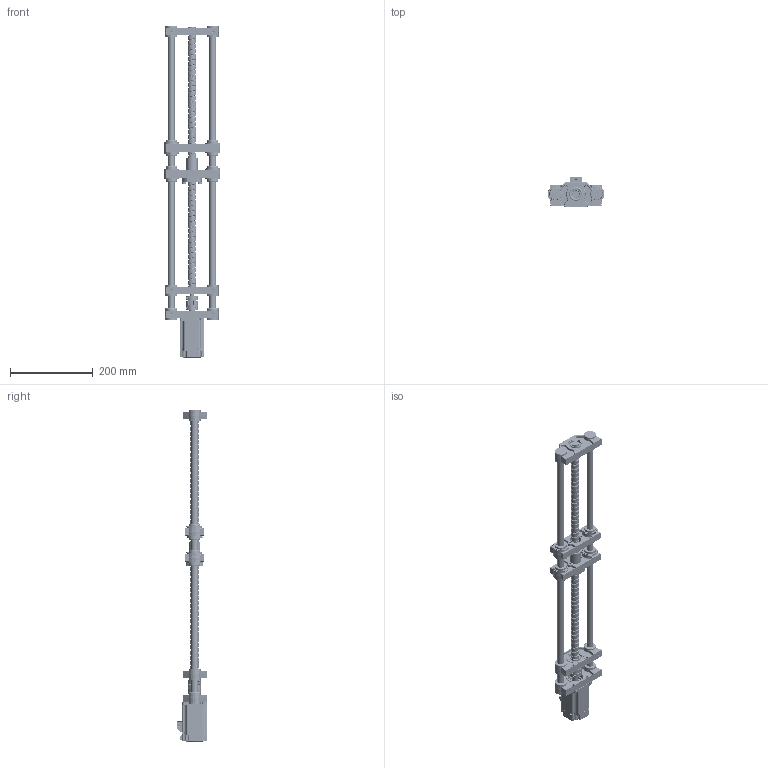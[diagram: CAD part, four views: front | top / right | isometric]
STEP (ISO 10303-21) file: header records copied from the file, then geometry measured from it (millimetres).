
FILE_DESCRIPTION (( 'STEP AP203' ), '1' );
FILE_NAME ('MAF-16.STEP', '2026-04-29T16:08:42', ( '' ), ( '' ), 'SwSTEP 2.0', 'SolidWorks 2019', '' );
FILE_SCHEMA (( 'CONFIG_CONTROL_DESIGN' ));
Length unit declared in the file: millimetre
Products named in the file (14): MAF-16; KTM-MER-04.00-00; socket head cap screw_din_DIN 912 M6 x 20 --- 20N; KTM-MER-02.00-00; KTM-MER-03.00-00; circlip for shafts heavy_din_Circlip DIN 471 - 30 x 2; ADS-10; SV-TH06-0R4G-2-RA0&NA0(400w); SFNU1610; ROLAM.LINEAR - LM16UU; KTM-MER-01.00-00; radial ball bearing_68_din_DIN 625 - 6203 - 10,SI,NC,10_68; ROLAMENTO 609 - ZZ   9X24X7; KTM-MER-05.00-00
Assembly tree (28 placements, depth 2):
  MAF-16
    KTM-MER-01.00-00  x2
    KTM-MER-03.00-00
    KTM-MER-02.00-00  x2
    KTM-MER-04.00-00
    ROLAMENTO 609 - ZZ   9X24X7
    radial ball bearing_68_din_DIN 625 - 6203 - 10,SI,NC,10_68  x2
    KTM-MER-05.00-00  x2
    ROLAM.LINEAR - LM16UU  x4
    circlip for shafts heavy_din_Circlip DIN 471 - 30 x 2  x8
    SV-TH06-0R4G-2-RA0&NA0(400w)
    ADS-10
    SFNU1610
    socket head cap screw_din_DIN 912 M6 x 20 --- 20N  x2
Bounding box: 138 x 72.5 x 804.3 mm (x, y, z)
Volume: 1065875.5 mm3; surface area: 388952.9 mm2
Topology: 35 solids, 38 shells, 4450 faces, 10751 edges, 6400 vertices
Faces by surface type: cylinder 1533, plane 1211, torus 731, bspline 529, cone 225, sphere 221
Entity records: 147618 total; most frequent: CARTESIAN_POINT 78171, DIRECTION 14695, ORIENTED_EDGE 13990, EDGE_CURVE 6995, AXIS2_PLACEMENT_3D 6046, VERTEX_POINT 4147, CIRCLE 3297, EDGE_LOOP 3230
